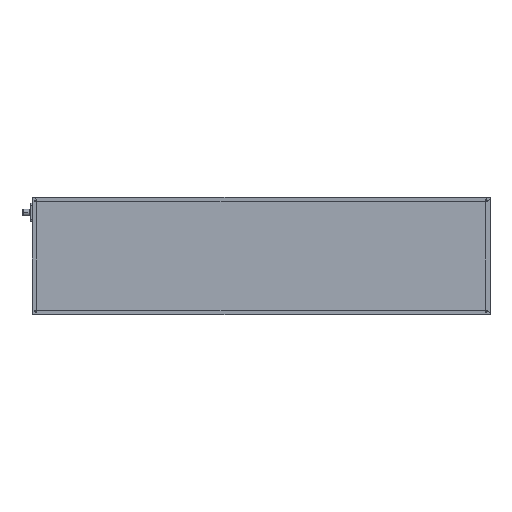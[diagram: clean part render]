
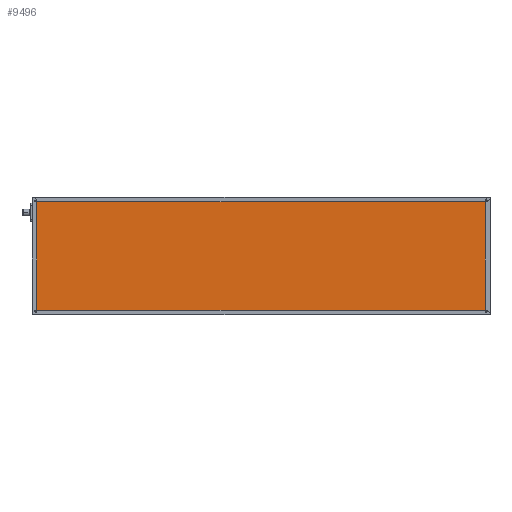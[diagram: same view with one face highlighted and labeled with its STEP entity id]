
A CAD part, top view. The second image highlights one B-rep face of the part: STEP entity #9496.
In plain terms, the highlighted planar face has unit normal (0, 0, 1).
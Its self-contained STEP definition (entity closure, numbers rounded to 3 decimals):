
#307 = VECTOR ( 'NONE', #361, 1000. ) ;
#361 = DIRECTION ( 'NONE',  ( 0., 1., 0. ) ) ;
#667 = CARTESIAN_POINT ( 'NONE',  ( 4., 0., 41.85 ) ) ;
#905 = EDGE_CURVE ( 'NONE', #10133, #5399, #4111, .T. ) ;
#1044 = EDGE_LOOP ( 'NONE', ( #3887, #7572, #13160, #1430 ) ) ;
#1430 = ORIENTED_EDGE ( 'NONE', *, *, #7186, .T. ) ;
#1477 = CARTESIAN_POINT ( 'NONE',  ( 0., 196., 41.85 ) ) ;
#1478 = VECTOR ( 'NONE', #3205, 1000. ) ;
#1828 = DIRECTION ( 'NONE',  ( -1., 0., 0. ) ) ;
#2013 = AXIS2_PLACEMENT_3D ( 'NONE', #14166, #15376, #6241 ) ;
#2107 = VECTOR ( 'NONE', #5430, 1000. ) ;
#2436 = EDGE_CURVE ( 'NONE', #5399, #10419, #3127, .T. ) ;
#3043 = CARTESIAN_POINT ( 'NONE',  ( 796., 4., 41.85 ) ) ;
#3127 = LINE ( 'NONE', #1477, #6806 ) ;
#3143 = CARTESIAN_POINT ( 'NONE',  ( 796., 0., 41.85 ) ) ;
#3205 = DIRECTION ( 'NONE',  ( 0., -1., 0. ) ) ;
#3887 = ORIENTED_EDGE ( 'NONE', *, *, #905, .T. ) ;
#4111 = LINE ( 'NONE', #3143, #307 ) ;
#5399 = VERTEX_POINT ( 'NONE', #5822 ) ;
#5430 = DIRECTION ( 'NONE',  ( 1., 0., 0. ) ) ;
#5822 = CARTESIAN_POINT ( 'NONE',  ( 796., 196., 41.85 ) ) ;
#6241 = DIRECTION ( 'NONE',  ( -1., 0., 0. ) ) ;
#6806 = VECTOR ( 'NONE', #1828, 1000. ) ;
#7007 = LINE ( 'NONE', #9713, #2107 ) ;
#7186 = EDGE_CURVE ( 'NONE', #9151, #10133, #7007, .T. ) ;
#7572 = ORIENTED_EDGE ( 'NONE', *, *, #2436, .T. ) ;
#7663 = CARTESIAN_POINT ( 'NONE',  ( 4., 4., 41.85 ) ) ;
#9037 = FACE_OUTER_BOUND ( 'NONE', #1044, .T. ) ;
#9151 = VERTEX_POINT ( 'NONE', #7663 ) ;
#9496 = ADVANCED_FACE ( 'NONE', ( #9037 ), #10167, .F. ) ;
#9713 = CARTESIAN_POINT ( 'NONE',  ( 0., 4., 41.85 ) ) ;
#10133 = VERTEX_POINT ( 'NONE', #3043 ) ;
#10167 = PLANE ( 'NONE',  #2013 ) ;
#10419 = VERTEX_POINT ( 'NONE', #10521 ) ;
#10521 = CARTESIAN_POINT ( 'NONE',  ( 4., 196., 41.85 ) ) ;
#11982 = EDGE_CURVE ( 'NONE', #10419, #9151, #15048, .T. ) ;
#13160 = ORIENTED_EDGE ( 'NONE', *, *, #11982, .T. ) ;
#14166 = CARTESIAN_POINT ( 'NONE',  ( 0., 0., 41.85 ) ) ;
#15048 = LINE ( 'NONE', #667, #1478 ) ;
#15376 = DIRECTION ( 'NONE',  ( 0., 0., -1. ) ) ;
